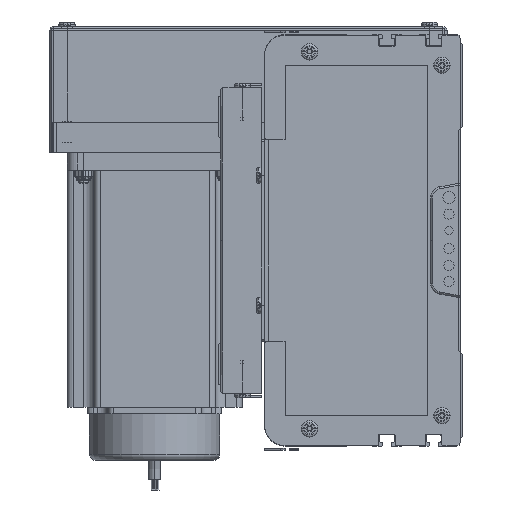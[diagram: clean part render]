
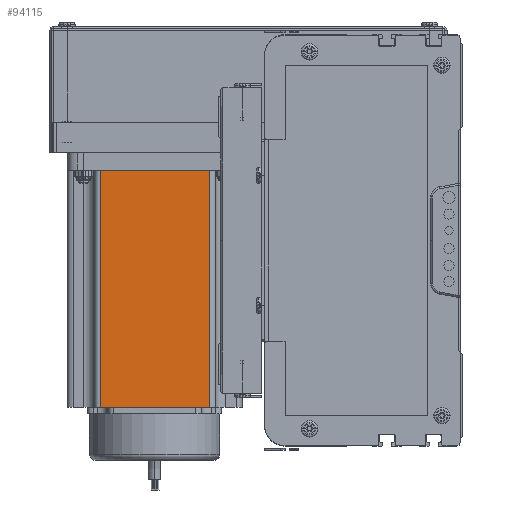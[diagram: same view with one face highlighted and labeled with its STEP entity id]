
A CAD part, left-side view. The second image highlights one B-rep face of the part: STEP entity #94115.
In plain terms, the highlighted planar face has unit normal (-1, 0, 0) as drawn and (0, -1, 0) by its records, which use the part's own axes.
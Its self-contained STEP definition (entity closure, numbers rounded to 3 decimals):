
#53149 = DIRECTION ( 'NONE',  ( 0., 0., 1. ) ) ;
#53152 = DIRECTION ( 'NONE',  ( 0., 1., 0. ) ) ;
#53153 = AXIS2_PLACEMENT_3D ( 'NONE', #53469, #53152, #53149 ) ;
#53442 = FACE_OUTER_BOUND ( 'NONE', #86685, .T. ) ;
#53469 = CARTESIAN_POINT ( 'NONE',  ( 0., 0., 116.5 ) ) ;
#53471 = PLANE ( 'NONE',  #53153 ) ;
#60431 = VECTOR ( 'NONE', #60442, 1000. ) ;
#60442 = DIRECTION ( 'NONE',  ( 1., 0., 0. ) ) ;
#60587 = CARTESIAN_POINT ( 'NONE',  ( 16.16, 0., 0. ) ) ;
#60714 = CARTESIAN_POINT ( 'NONE',  ( 69.74, 0., 116.5 ) ) ;
#60744 = DIRECTION ( 'NONE',  ( 1., 0., 0. ) ) ;
#60745 = VECTOR ( 'NONE', #60744, 1000. ) ;
#60746 = CARTESIAN_POINT ( 'NONE',  ( 0., 0., 116.5 ) ) ;
#60752 = CARTESIAN_POINT ( 'NONE',  ( 0., 0., 0. ) ) ;
#60753 = LINE ( 'NONE', #60752, #60745 ) ;
#60755 = LINE ( 'NONE', #60746, #60431 ) ;
#60785 = LINE ( 'NONE', #61110, #61102 ) ;
#61100 = DIRECTION ( 'NONE',  ( 0., 0., 1. ) ) ;
#61102 = VECTOR ( 'NONE', #61100, 1000. ) ;
#61110 = CARTESIAN_POINT ( 'NONE',  ( 69.74, 0., 116.5 ) ) ;
#61430 = DIRECTION ( 'NONE',  ( 0., 0., -1. ) ) ;
#61492 = VECTOR ( 'NONE', #61430, 1000. ) ;
#61494 = LINE ( 'NONE', #61499, #61492 ) ;
#61499 = CARTESIAN_POINT ( 'NONE',  ( 16.16, 0., 116.5 ) ) ;
#62001 = CARTESIAN_POINT ( 'NONE',  ( 16.16, 0., 116.5 ) ) ;
#62054 = CARTESIAN_POINT ( 'NONE',  ( 69.74, 0., 0. ) ) ;
#86685 = EDGE_LOOP ( 'NONE', ( #94986, #94700, #95009, #94646 ) ) ;
#94115 = ADVANCED_FACE ( 'NONE', ( #53442 ), #53471, .F. ) ;
#94646 = ORIENTED_EDGE ( 'NONE', *, *, #94741, .T. ) ;
#94661 = EDGE_CURVE ( 'NONE', #94999, #94701, #60785, .T. ) ;
#94700 = ORIENTED_EDGE ( 'NONE', *, *, #94661, .T. ) ;
#94701 = VERTEX_POINT ( 'NONE', #60714 ) ;
#94731 = EDGE_CURVE ( 'NONE', #94734, #94999, #60753, .T. ) ;
#94733 = EDGE_CURVE ( 'NONE', #95015, #94701, #60755, .T. ) ;
#94734 = VERTEX_POINT ( 'NONE', #60587 ) ;
#94741 = EDGE_CURVE ( 'NONE', #95015, #94734, #61494, .T. ) ;
#94986 = ORIENTED_EDGE ( 'NONE', *, *, #94731, .T. ) ;
#94999 = VERTEX_POINT ( 'NONE', #62054 ) ;
#95009 = ORIENTED_EDGE ( 'NONE', *, *, #94733, .F. ) ;
#95015 = VERTEX_POINT ( 'NONE', #62001 ) ;
